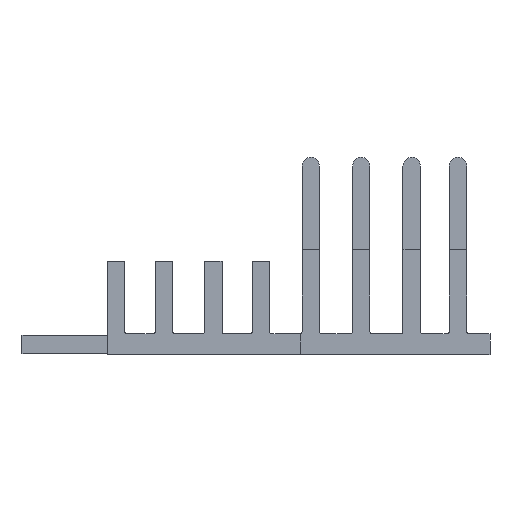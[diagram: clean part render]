
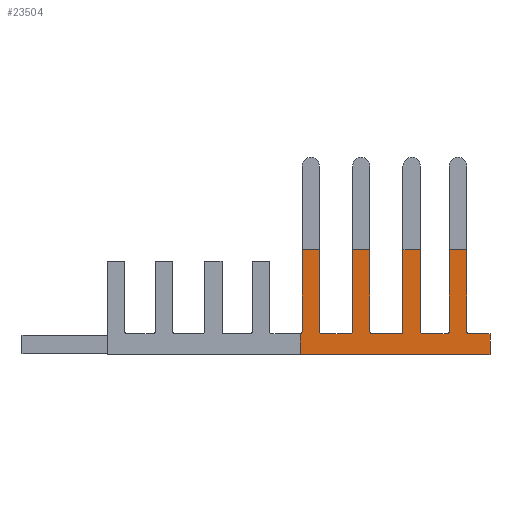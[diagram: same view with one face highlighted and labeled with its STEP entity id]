
A CAD part, left-side view. The second image highlights one B-rep face of the part: STEP entity #23504.
In plain terms, the highlighted planar face has unit normal (-1, 0, 0).
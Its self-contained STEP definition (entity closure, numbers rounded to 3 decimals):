
#7416 = VERTEX_POINT('',#7417);
#7417 = CARTESIAN_POINT('',(83.03,-110.95,2.941));
#7423 = EDGE_CURVE('',#7416,#7424,#7426,.T.);
#7424 = VERTEX_POINT('',#7425);
#7425 = CARTESIAN_POINT('',(83.03,-110.95,4.741));
#7426 = LINE('',#7427,#7428);
#7427 = CARTESIAN_POINT('',(83.03,-110.95,0.));
#7428 = VECTOR('',#7429,1.);
#7429 = DIRECTION('',(0.,0.,1.));
#13957 = VERTEX_POINT('',#13958);
#13958 = CARTESIAN_POINT('',(83.03,-94.6,2.941));
#13966 = EDGE_CURVE('',#13957,#13967,#13969,.T.);
#13967 = VERTEX_POINT('',#13968);
#13968 = CARTESIAN_POINT('',(83.03,-94.6,4.748));
#13969 = LINE('',#13970,#13971);
#13970 = CARTESIAN_POINT('',(83.03,-94.6,0.));
#13971 = VECTOR('',#13972,1.);
#13972 = DIRECTION('',(0.,0.,1.));
#23484 = EDGE_CURVE('',#7424,#23485,#23487,.T.);
#23485 = VERTEX_POINT('',#23486);
#23486 = CARTESIAN_POINT('',(83.03,-109.147,4.741));
#23487 = LINE('',#23488,#23489);
#23488 = CARTESIAN_POINT('',(83.03,-113.423,4.741));
#23489 = VECTOR('',#23490,1.);
#23490 = DIRECTION('',(0.,1.,0.));
#23504 = ADVANCED_FACE('',(#23505),#23706,.F.);
#23505 = FACE_BOUND('',#23506,.F.);
#23506 = EDGE_LOOP('',(#23507,#23513,#23514,#23523,#23531,#23539,#23547,
    #23556,#23564,#23573,#23581,#23589,#23597,#23606,#23614,#23623,
    #23631,#23639,#23647,#23656,#23664,#23673,#23681,#23689,#23697,
    #23704,#23705));
#23507 = ORIENTED_EDGE('',*,*,#23508,.F.);
#23508 = EDGE_CURVE('',#13957,#7416,#23509,.T.);
#23509 = LINE('',#23510,#23511);
#23510 = CARTESIAN_POINT('',(83.03,-96.773,2.941));
#23511 = VECTOR('',#23512,1.);
#23512 = DIRECTION('',(0.,-1.,0.));
#23513 = ORIENTED_EDGE('',*,*,#13966,.T.);
#23514 = ORIENTED_EDGE('',*,*,#23515,.T.);
#23515 = EDGE_CURVE('',#13967,#23516,#23518,.T.);
#23516 = VERTEX_POINT('',#23517);
#23517 = CARTESIAN_POINT('',(83.03,-94.747,4.941));
#23518 = CIRCLE('',#23519,0.2);
#23519 = AXIS2_PLACEMENT_3D('',#23520,#23521,#23522);
#23520 = CARTESIAN_POINT('',(83.03,-94.547,4.941));
#23521 = DIRECTION('',(-1.,0.,0.));
#23522 = DIRECTION('',(0.,0.,-1.));
#23523 = ORIENTED_EDGE('',*,*,#23524,.F.);
#23524 = EDGE_CURVE('',#23525,#23516,#23527,.T.);
#23525 = VERTEX_POINT('',#23526);
#23526 = CARTESIAN_POINT('',(83.03,-94.747,12.));
#23527 = LINE('',#23528,#23529);
#23528 = CARTESIAN_POINT('',(83.03,-94.747,6.095));
#23529 = VECTOR('',#23530,1.);
#23530 = DIRECTION('',(0.,0.,-1.));
#23531 = ORIENTED_EDGE('',*,*,#23532,.T.);
#23532 = EDGE_CURVE('',#23525,#23533,#23535,.T.);
#23533 = VERTEX_POINT('',#23534);
#23534 = CARTESIAN_POINT('',(83.03,-96.247,12.));
#23535 = LINE('',#23536,#23537);
#23536 = CARTESIAN_POINT('',(83.03,-120.3,12.));
#23537 = VECTOR('',#23538,1.);
#23538 = DIRECTION('',(0.,-1.,0.));
#23539 = ORIENTED_EDGE('',*,*,#23540,.F.);
#23540 = EDGE_CURVE('',#23541,#23533,#23543,.T.);
#23541 = VERTEX_POINT('',#23542);
#23542 = CARTESIAN_POINT('',(83.03,-96.247,4.941));
#23543 = LINE('',#23544,#23545);
#23544 = CARTESIAN_POINT('',(83.03,-96.247,2.47));
#23545 = VECTOR('',#23546,1.);
#23546 = DIRECTION('',(0.,0.,1.));
#23547 = ORIENTED_EDGE('',*,*,#23548,.T.);
#23548 = EDGE_CURVE('',#23541,#23549,#23551,.T.);
#23549 = VERTEX_POINT('',#23550);
#23550 = CARTESIAN_POINT('',(83.03,-96.447,4.741));
#23551 = CIRCLE('',#23552,0.2);
#23552 = AXIS2_PLACEMENT_3D('',#23553,#23554,#23555);
#23553 = CARTESIAN_POINT('',(83.03,-96.447,4.941));
#23554 = DIRECTION('',(-1.,0.,0.));
#23555 = DIRECTION('',(0.,1.,0.));
#23556 = ORIENTED_EDGE('',*,*,#23557,.F.);
#23557 = EDGE_CURVE('',#23558,#23549,#23560,.T.);
#23558 = VERTEX_POINT('',#23559);
#23559 = CARTESIAN_POINT('',(83.03,-98.897,4.741));
#23560 = LINE('',#23561,#23562);
#23561 = CARTESIAN_POINT('',(83.03,-107.248,4.741));
#23562 = VECTOR('',#23563,1.);
#23563 = DIRECTION('',(0.,1.,0.));
#23564 = ORIENTED_EDGE('',*,*,#23565,.T.);
#23565 = EDGE_CURVE('',#23558,#23566,#23568,.T.);
#23566 = VERTEX_POINT('',#23567);
#23567 = CARTESIAN_POINT('',(83.03,-99.097,4.941));
#23568 = CIRCLE('',#23569,0.2);
#23569 = AXIS2_PLACEMENT_3D('',#23570,#23571,#23572);
#23570 = CARTESIAN_POINT('',(83.03,-98.897,4.941));
#23571 = DIRECTION('',(-1.,0.,0.));
#23572 = DIRECTION('',(0.,0.,-1.));
#23573 = ORIENTED_EDGE('',*,*,#23574,.F.);
#23574 = EDGE_CURVE('',#23575,#23566,#23577,.T.);
#23575 = VERTEX_POINT('',#23576);
#23576 = CARTESIAN_POINT('',(83.03,-99.097,12.));
#23577 = LINE('',#23578,#23579);
#23578 = CARTESIAN_POINT('',(83.03,-99.097,6.095));
#23579 = VECTOR('',#23580,1.);
#23580 = DIRECTION('',(0.,0.,-1.));
#23581 = ORIENTED_EDGE('',*,*,#23582,.T.);
#23582 = EDGE_CURVE('',#23575,#23583,#23585,.T.);
#23583 = VERTEX_POINT('',#23584);
#23584 = CARTESIAN_POINT('',(83.03,-100.597,12.));
#23585 = LINE('',#23586,#23587);
#23586 = CARTESIAN_POINT('',(83.03,-120.3,12.));
#23587 = VECTOR('',#23588,1.);
#23588 = DIRECTION('',(0.,-1.,0.));
#23589 = ORIENTED_EDGE('',*,*,#23590,.F.);
#23590 = EDGE_CURVE('',#23591,#23583,#23593,.T.);
#23591 = VERTEX_POINT('',#23592);
#23592 = CARTESIAN_POINT('',(83.03,-100.597,4.941));
#23593 = LINE('',#23594,#23595);
#23594 = CARTESIAN_POINT('',(83.03,-100.597,2.47));
#23595 = VECTOR('',#23596,1.);
#23596 = DIRECTION('',(0.,0.,1.));
#23597 = ORIENTED_EDGE('',*,*,#23598,.T.);
#23598 = EDGE_CURVE('',#23591,#23599,#23601,.T.);
#23599 = VERTEX_POINT('',#23600);
#23600 = CARTESIAN_POINT('',(83.03,-100.797,4.741));
#23601 = CIRCLE('',#23602,0.2);
#23602 = AXIS2_PLACEMENT_3D('',#23603,#23604,#23605);
#23603 = CARTESIAN_POINT('',(83.03,-100.797,4.941));
#23604 = DIRECTION('',(-1.,0.,0.));
#23605 = DIRECTION('',(0.,1.,0.));
#23606 = ORIENTED_EDGE('',*,*,#23607,.F.);
#23607 = EDGE_CURVE('',#23608,#23599,#23610,.T.);
#23608 = VERTEX_POINT('',#23609);
#23609 = CARTESIAN_POINT('',(83.03,-103.247,4.741));
#23610 = LINE('',#23611,#23612);
#23611 = CARTESIAN_POINT('',(83.03,-109.423,4.741));
#23612 = VECTOR('',#23613,1.);
#23613 = DIRECTION('',(0.,1.,0.));
#23614 = ORIENTED_EDGE('',*,*,#23615,.T.);
#23615 = EDGE_CURVE('',#23608,#23616,#23618,.T.);
#23616 = VERTEX_POINT('',#23617);
#23617 = CARTESIAN_POINT('',(83.03,-103.447,4.941));
#23618 = CIRCLE('',#23619,0.2);
#23619 = AXIS2_PLACEMENT_3D('',#23620,#23621,#23622);
#23620 = CARTESIAN_POINT('',(83.03,-103.247,4.941));
#23621 = DIRECTION('',(-1.,0.,0.));
#23622 = DIRECTION('',(0.,0.,-1.));
#23623 = ORIENTED_EDGE('',*,*,#23624,.F.);
#23624 = EDGE_CURVE('',#23625,#23616,#23627,.T.);
#23625 = VERTEX_POINT('',#23626);
#23626 = CARTESIAN_POINT('',(83.03,-103.447,12.));
#23627 = LINE('',#23628,#23629);
#23628 = CARTESIAN_POINT('',(83.03,-103.447,6.095));
#23629 = VECTOR('',#23630,1.);
#23630 = DIRECTION('',(0.,0.,-1.));
#23631 = ORIENTED_EDGE('',*,*,#23632,.T.);
#23632 = EDGE_CURVE('',#23625,#23633,#23635,.T.);
#23633 = VERTEX_POINT('',#23634);
#23634 = CARTESIAN_POINT('',(83.03,-104.947,12.));
#23635 = LINE('',#23636,#23637);
#23636 = CARTESIAN_POINT('',(83.03,-120.3,12.));
#23637 = VECTOR('',#23638,1.);
#23638 = DIRECTION('',(0.,-1.,0.));
#23639 = ORIENTED_EDGE('',*,*,#23640,.F.);
#23640 = EDGE_CURVE('',#23641,#23633,#23643,.T.);
#23641 = VERTEX_POINT('',#23642);
#23642 = CARTESIAN_POINT('',(83.03,-104.947,4.941));
#23643 = LINE('',#23644,#23645);
#23644 = CARTESIAN_POINT('',(83.03,-104.947,2.47));
#23645 = VECTOR('',#23646,1.);
#23646 = DIRECTION('',(0.,0.,1.));
#23647 = ORIENTED_EDGE('',*,*,#23648,.T.);
#23648 = EDGE_CURVE('',#23641,#23649,#23651,.T.);
#23649 = VERTEX_POINT('',#23650);
#23650 = CARTESIAN_POINT('',(83.03,-105.147,4.741));
#23651 = CIRCLE('',#23652,0.2);
#23652 = AXIS2_PLACEMENT_3D('',#23653,#23654,#23655);
#23653 = CARTESIAN_POINT('',(83.03,-105.147,4.941));
#23654 = DIRECTION('',(-1.,0.,0.));
#23655 = DIRECTION('',(0.,1.,0.));
#23656 = ORIENTED_EDGE('',*,*,#23657,.F.);
#23657 = EDGE_CURVE('',#23658,#23649,#23660,.T.);
#23658 = VERTEX_POINT('',#23659);
#23659 = CARTESIAN_POINT('',(83.03,-107.247,4.741));
#23660 = LINE('',#23661,#23662);
#23661 = CARTESIAN_POINT('',(83.03,-111.423,4.741));
#23662 = VECTOR('',#23663,1.);
#23663 = DIRECTION('',(0.,1.,0.));
#23664 = ORIENTED_EDGE('',*,*,#23665,.T.);
#23665 = EDGE_CURVE('',#23658,#23666,#23668,.T.);
#23666 = VERTEX_POINT('',#23667);
#23667 = CARTESIAN_POINT('',(83.03,-107.447,4.941));
#23668 = CIRCLE('',#23669,0.2);
#23669 = AXIS2_PLACEMENT_3D('',#23670,#23671,#23672);
#23670 = CARTESIAN_POINT('',(83.03,-107.247,4.941));
#23671 = DIRECTION('',(-1.,0.,0.));
#23672 = DIRECTION('',(0.,0.,-1.));
#23673 = ORIENTED_EDGE('',*,*,#23674,.F.);
#23674 = EDGE_CURVE('',#23675,#23666,#23677,.T.);
#23675 = VERTEX_POINT('',#23676);
#23676 = CARTESIAN_POINT('',(83.03,-107.447,12.));
#23677 = LINE('',#23678,#23679);
#23678 = CARTESIAN_POINT('',(83.03,-107.447,6.095));
#23679 = VECTOR('',#23680,1.);
#23680 = DIRECTION('',(0.,0.,-1.));
#23681 = ORIENTED_EDGE('',*,*,#23682,.T.);
#23682 = EDGE_CURVE('',#23675,#23683,#23685,.T.);
#23683 = VERTEX_POINT('',#23684);
#23684 = CARTESIAN_POINT('',(83.03,-108.947,12.));
#23685 = LINE('',#23686,#23687);
#23686 = CARTESIAN_POINT('',(83.03,-120.3,12.));
#23687 = VECTOR('',#23688,1.);
#23688 = DIRECTION('',(0.,-1.,0.));
#23689 = ORIENTED_EDGE('',*,*,#23690,.F.);
#23690 = EDGE_CURVE('',#23691,#23683,#23693,.T.);
#23691 = VERTEX_POINT('',#23692);
#23692 = CARTESIAN_POINT('',(83.03,-108.947,4.941));
#23693 = LINE('',#23694,#23695);
#23694 = CARTESIAN_POINT('',(83.03,-108.947,2.47));
#23695 = VECTOR('',#23696,1.);
#23696 = DIRECTION('',(0.,0.,1.));
#23697 = ORIENTED_EDGE('',*,*,#23698,.T.);
#23698 = EDGE_CURVE('',#23691,#23485,#23699,.T.);
#23699 = CIRCLE('',#23700,0.2);
#23700 = AXIS2_PLACEMENT_3D('',#23701,#23702,#23703);
#23701 = CARTESIAN_POINT('',(83.03,-109.147,4.941));
#23702 = DIRECTION('',(-1.,0.,0.));
#23703 = DIRECTION('',(0.,1.,0.));
#23704 = ORIENTED_EDGE('',*,*,#23484,.F.);
#23705 = ORIENTED_EDGE('',*,*,#7423,.F.);
#23706 = PLANE('',#23707);
#23707 = AXIS2_PLACEMENT_3D('',#23708,#23709,#23710);
#23708 = CARTESIAN_POINT('',(83.03,-115.6,0.));
#23709 = DIRECTION('',(1.,0.,0.));
#23710 = DIRECTION('',(0.,0.,1.));
